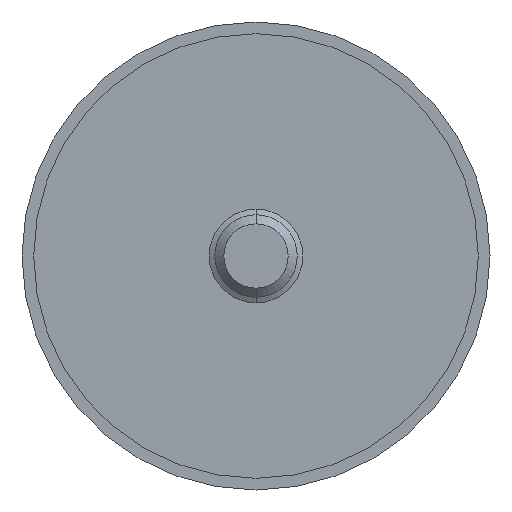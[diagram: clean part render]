
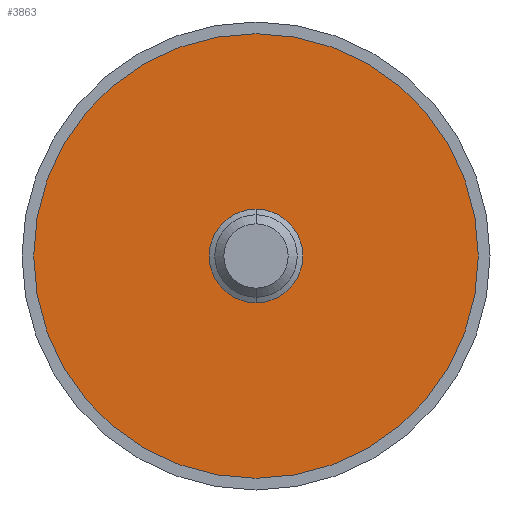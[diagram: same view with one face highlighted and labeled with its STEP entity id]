
A CAD part, front view. The second image highlights one B-rep face of the part: STEP entity #3863.
In plain terms, the highlighted planar face has unit normal (0, -1, 0).
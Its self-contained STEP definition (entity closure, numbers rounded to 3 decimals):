
#65 = CARTESIAN_POINT ( 'NONE',  ( 0., -1., 0. ) ) ;
#128 = AXIS2_PLACEMENT_3D ( 'NONE', #3638, #445, #3278 ) ;
#194 = EDGE_CURVE ( 'NONE', #380, #4333, #1362, .T. ) ;
#380 = VERTEX_POINT ( 'NONE', #2234 ) ;
#427 = CARTESIAN_POINT ( 'NONE',  ( 0., -1., 0. ) ) ;
#445 = DIRECTION ( 'NONE',  ( 0., 1., 0. ) ) ;
#593 = PLANE ( 'NONE',  #4001 ) ;
#723 = ORIENTED_EDGE ( 'NONE', *, *, #2184, .F. ) ;
#727 = DIRECTION ( 'NONE',  ( 0., 1., 0. ) ) ;
#938 = CARTESIAN_POINT ( 'NONE',  ( 0., -1., 0. ) ) ;
#1063 = AXIS2_PLACEMENT_3D ( 'NONE', #427, #1169, #1119 ) ;
#1119 = DIRECTION ( 'NONE',  ( 0., 0., -1. ) ) ;
#1169 = DIRECTION ( 'NONE',  ( 0., -1., 0. ) ) ;
#1196 = CARTESIAN_POINT ( 'NONE',  ( 0., -1., 19. ) ) ;
#1323 = VERTEX_POINT ( 'NONE', #1196 ) ;
#1362 = CIRCLE ( 'NONE', #1063, 4. ) ;
#1460 = DIRECTION ( 'NONE',  ( 0., 1., 0. ) ) ;
#1492 = DIRECTION ( 'NONE',  ( 0., -1., 0. ) ) ;
#1705 = CIRCLE ( 'NONE', #4131, 4. ) ;
#1776 = DIRECTION ( 'NONE',  ( 0., 0., 1. ) ) ;
#2023 = EDGE_LOOP ( 'NONE', ( #2750, #3068 ) ) ;
#2120 = EDGE_CURVE ( 'NONE', #4333, #380, #1705, .T. ) ;
#2139 = DIRECTION ( 'NONE',  ( 0., 0., 1. ) ) ;
#2184 = EDGE_CURVE ( 'NONE', #4162, #1323, #2751, .T. ) ;
#2234 = CARTESIAN_POINT ( 'NONE',  ( 0., -1., -4. ) ) ;
#2338 = EDGE_CURVE ( 'NONE', #1323, #4162, #3796, .T. ) ;
#2357 = FACE_OUTER_BOUND ( 'NONE', #4436, .T. ) ;
#2463 = CARTESIAN_POINT ( 'NONE',  ( 0., -1., -19. ) ) ;
#2750 = ORIENTED_EDGE ( 'NONE', *, *, #2120, .F. ) ;
#2751 = CIRCLE ( 'NONE', #3077, 19. ) ;
#2842 = CARTESIAN_POINT ( 'NONE',  ( 0., -1., 0. ) ) ;
#3068 = ORIENTED_EDGE ( 'NONE', *, *, #194, .F. ) ;
#3077 = AXIS2_PLACEMENT_3D ( 'NONE', #65, #1460, #2139 ) ;
#3270 = ORIENTED_EDGE ( 'NONE', *, *, #2338, .F. ) ;
#3278 = DIRECTION ( 'NONE',  ( 0., 0., 1. ) ) ;
#3540 = DIRECTION ( 'NONE',  ( 0., 0., -1. ) ) ;
#3638 = CARTESIAN_POINT ( 'NONE',  ( 0., -1., 0. ) ) ;
#3796 = CIRCLE ( 'NONE', #128, 19. ) ;
#3863 = ADVANCED_FACE ( 'NONE', ( #4371, #2357 ), #593, .F. ) ;
#3885 = CARTESIAN_POINT ( 'NONE',  ( 0., -1., 4. ) ) ;
#4001 = AXIS2_PLACEMENT_3D ( 'NONE', #938, #727, #1776 ) ;
#4131 = AXIS2_PLACEMENT_3D ( 'NONE', #2842, #1492, #3540 ) ;
#4162 = VERTEX_POINT ( 'NONE', #2463 ) ;
#4333 = VERTEX_POINT ( 'NONE', #3885 ) ;
#4371 = FACE_BOUND ( 'NONE', #2023, .T. ) ;
#4436 = EDGE_LOOP ( 'NONE', ( #3270, #723 ) ) ;
